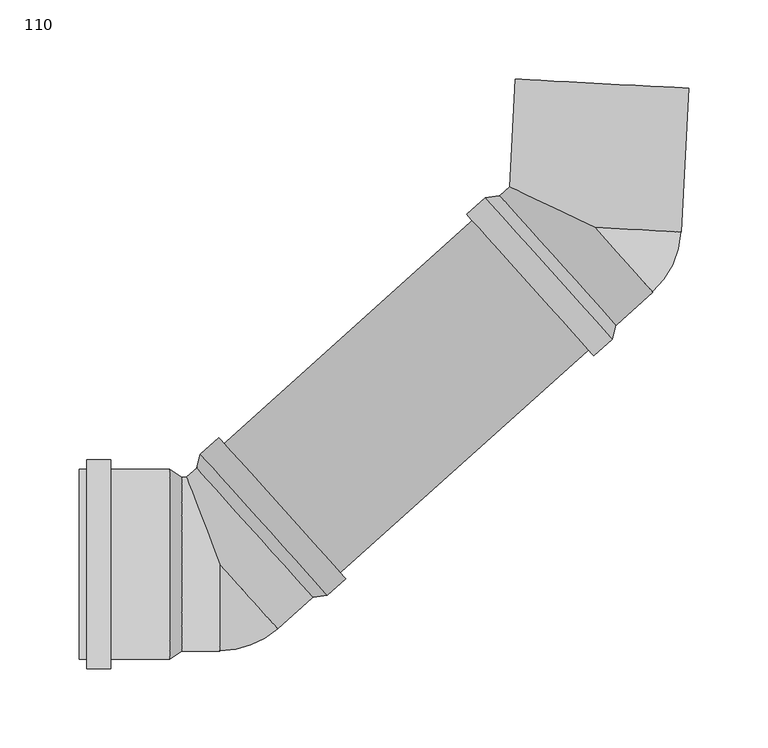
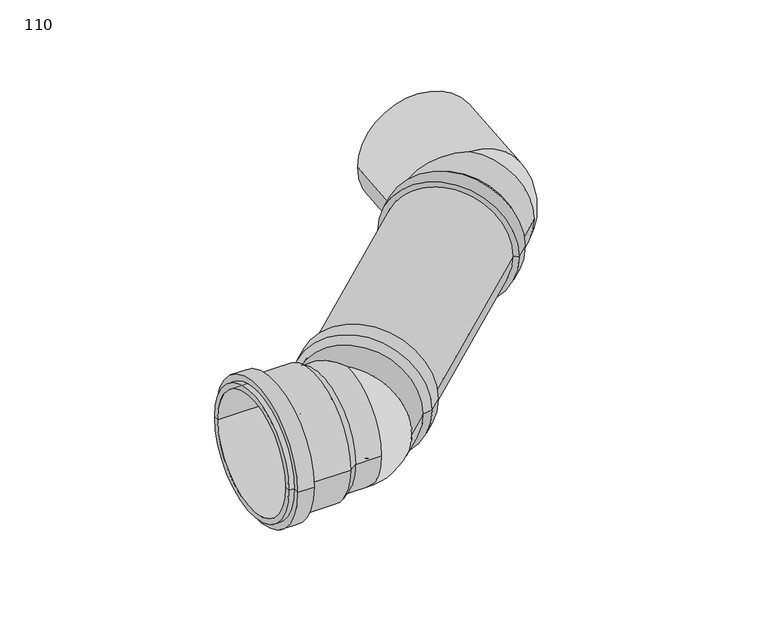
"""IFC4 building model written with IfcOpenShell, lengths in millimetres: pipe fitting geometry, AliaxisFR_Friaphon_LongCushioningSection_FR : 110."""

from ifc_helpers import new_model, si_unit, point, frame, frame_2d, origin, place, context, project, spatial, polyline, circle_curve, ellipse_curve, trimmed, segment, composite_curve, outline, extrude, source, transform, mapped, element, save
from ifc_brep_helpers import plane_surface, cylinder_surface, revolved_surface, advanced_brep


def pipe_fitting_110_3539ea34(model_context):
    return source(origin(), model_context, "Body", "SolidModel", [
        advanced_brep(
        [(10.6641927, 131.8771836, 0.0), (7.3217835, 135.595826, 0.0), (-66.2112184, 217.4059576, 0.0), (-69.5536275, 221.1245999, 0.0), (22.2663568, 142.3055003, 0.0), (-57.9514634, 231.5529166, 0.0), (24.576284, 151.1046046, 0.0), (-48.9567179, 232.9147362, 0.0)],
        [
            (0, 1),
            (1, 2, circle_curve(frame((-29.4447174, 176.5008918, 0.0), z_axis=(0.7437284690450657, 0.6684818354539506, 0.0), x_axis=(-0.6684818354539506, 0.7437284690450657, 0.0)), 55.0)),
            (2, 3),
            (3, 0, circle_curve(frame((-29.4447174, 176.5008918, 0.0), z_axis=(-0.7437284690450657, -0.6684818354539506, 0.0), x_axis=(-0.6684818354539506, 0.7437284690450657, 0.0)), 60.0)),
            (2, 1, circle_curve(frame((-29.4447174, 176.5008918, 0.0), z_axis=(0.7437284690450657, 0.6684818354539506, 0.0), x_axis=(-0.6684818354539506, 0.7437284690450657, 0.0)), 55.0)),
            (0, 3, circle_curve(frame((-29.4447174, 176.5008918, 0.0), z_axis=(-0.7437284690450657, -0.6684818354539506, 0.0), x_axis=(-0.6684818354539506, 0.7437284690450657, 0.0)), 60.0)),
            (4, 0),
            (3, 5),
            (5, 4, circle_curve(frame((-17.8425533, 186.9292084, 0.0), z_axis=(-0.7437284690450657, -0.6684818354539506, 0.0), x_axis=(-0.6684818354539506, 0.7437284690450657, 0.0)), 60.0)),
            (4, 5, circle_curve(frame((-17.8425533, 186.9292084, 0.0), z_axis=(-0.7437284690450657, -0.6684818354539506, 0.0), x_axis=(-0.6684818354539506, 0.7437284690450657, 0.0)), 60.0)),
            (1, 6),
            (6, 7, circle_curve(frame((-12.1902169, 192.0096704, 0.0), z_axis=(0.7437284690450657, 0.6684818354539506, 0.0), x_axis=(-0.6684818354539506, 0.7437284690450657, 0.0)), 55.0)),
            (7, 2),
            (7, 6, circle_curve(frame((-12.1902169, 192.0096704, 0.0), z_axis=(0.7437284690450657, 0.6684818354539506, 0.0), x_axis=(-0.6684818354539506, 0.7437284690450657, 0.0)), 55.0)),
            (6, 4),
            (5, 7),
        ],
        [
            plane_surface(frame((-29.4447174, 176.5008918, 0.0), z_axis=(-0.7437284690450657, -0.6684818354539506, 0.0), x_axis=(-0.6684818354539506, 0.7437284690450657, 0.0))),
            cylinder_surface(frame((-12.1902169, 192.0096704, 0.0), z_axis=(0.7437284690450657, 0.6684818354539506, 0.0), x_axis=(-0.6684818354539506, 0.7437284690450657, 0.0)), 60.0),
            revolved_surface(polyline([(-48.956717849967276, 232.91473619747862, 0.0), (-66.21121837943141, 217.40595757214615, 0.0)]), (-12.1902169, 192.0096704, 0.0), (0.7437284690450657, 0.6684818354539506, 0.0)),
            revolved_surface(polyline([(-57.9514634, 231.5529166, 0.0), (-48.9567179, 232.9147362, 0.0)]), (-12.1902169, 192.0096704, 0.0), (0.7437284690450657, 0.6684818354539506, 0.0)),
        ],
        [
            (0, [[1, 2, 3, 4]]),
            (0, [[-3, 5, -1, 6]]),
            (1, [[7, -4, 8, 9]]),
            (1, [[-8, -6, -7, 10]]),
            (2, [[11, 12, 13, -2]]),
            (2, [[-13, 14, -11, -5]]),
            (3, [[15, -9, 16, -12]]),
            (3, [[-16, -10, -15, -14]]),
        ],
    ),
        advanced_brep(
        [(-146.2362512, -9.1812325, 0.0), (-226.4540714, 80.0661838, 0.0), (-223.1116623, 76.3475414, 0.0), (-149.5786604, -5.4625902, 0.0), (-157.8384153, -19.6095491, 0.0), (-238.0562356, 69.6378671, 0.0), (-240.3661627, 60.8387629, 0.0), (-166.8331608, -20.9713687, 0.0)],
        [
            (0, 1, circle_curve(frame((-186.3451613, 35.4424756, 0.0), z_axis=(0.7437284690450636, 0.6684818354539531, 0.0), x_axis=(-0.6684818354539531, 0.7437284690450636, 0.0)), 60.0)),
            (1, 2),
            (2, 3, circle_curve(frame((-186.3451613, 35.4424756, 0.0), z_axis=(-0.7437284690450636, -0.6684818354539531, 0.0), x_axis=(-0.6684818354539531, 0.7437284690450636, 0.0)), 55.0)),
            (3, 0),
            (1, 0, circle_curve(frame((-186.3451613, 35.4424756, 0.0), z_axis=(0.7437284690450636, 0.6684818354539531, 0.0), x_axis=(-0.6684818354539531, 0.7437284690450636, 0.0)), 60.0)),
            (3, 2, circle_curve(frame((-186.3451613, 35.4424756, 0.0), z_axis=(-0.7437284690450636, -0.6684818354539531, 0.0), x_axis=(-0.6684818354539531, 0.7437284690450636, 0.0)), 55.0)),
            (4, 5, circle_curve(frame((-197.9473254, 25.014159, 0.0), z_axis=(0.7437284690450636, 0.6684818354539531, 0.0), x_axis=(-0.6684818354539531, 0.7437284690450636, 0.0)), 60.0)),
            (5, 1),
            (0, 4),
            (5, 4, circle_curve(frame((-197.9473254, 25.014159, 0.0), z_axis=(0.7437284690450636, 0.6684818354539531, 0.0), x_axis=(-0.6684818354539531, 0.7437284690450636, 0.0)), 60.0)),
            (2, 6),
            (6, 7, circle_curve(frame((-203.5996618, 19.9336971, 0.0), z_axis=(-0.7437284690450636, -0.6684818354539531, 0.0), x_axis=(-0.6684818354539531, 0.7437284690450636, 0.0)), 55.0)),
            (7, 3),
            (7, 6, circle_curve(frame((-203.5996618, 19.9336971, 0.0), z_axis=(-0.7437284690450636, -0.6684818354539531, 0.0), x_axis=(-0.6684818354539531, 0.7437284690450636, 0.0)), 55.0)),
            (6, 5),
            (4, 7),
        ],
        [
            plane_surface(frame((-186.3451613, 35.4424756, 0.0), z_axis=(0.7437284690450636, 0.6684818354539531, 0.0), x_axis=(-0.6684818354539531, 0.7437284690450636, 0.0))),
            cylinder_surface(frame((-203.5996618, 19.9336971, 0.0), z_axis=(-0.7437284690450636, -0.6684818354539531, 0.0), x_axis=(-0.6684818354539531, 0.7437284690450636, 0.0)), 60.0),
            revolved_surface(polyline([(-240.36616274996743, 60.8387628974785, 0.0), (-223.1116622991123, 76.34754145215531, 0.0)]), (-203.5996618, 19.9336971, 0.0), (-0.7437284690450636, -0.6684818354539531, 0.0)),
            revolved_surface(polyline([(-238.0562356, 69.6378671, 0.0), (-240.3661627, 60.8387629, 0.0)]), (-203.5996618, 19.9336971, 0.0), (-0.7437284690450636, -0.6684818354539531, 0.0)),
        ],
        [
            (0, [[1, 2, 3, 4]]),
            (0, [[5, -4, 6, -2]]),
            (1, [[7, 8, -1, 9]]),
            (1, [[10, -9, -5, -8]]),
            (2, [[-3, 11, 12, 13]]),
            (2, [[-6, -13, 14, -11]]),
            (3, [[-12, 15, -7, 16]]),
            (3, [[-14, -16, -10, -15]]),
        ],
    ),
        advanced_brep(
        [(21.8988615, 148.69807, 0.0), (-51.6341404, 230.5082016, 0.0), (47.9293579, 172.0949342, 0.0), (11.162857, 213.0, 55.0), (-42.5679912, 238.6570842, 0.0), (11.162857, 213.0, -55.0), (-38.9991954, 306.7537653, 0.0), (15.925429, 303.8752877, 55.0), (70.8500534, 300.9968101, 0.0), (15.925429, 303.8752877, -55.0), (66.0874814, 210.1215224, 0.0)],
        [
            (0, 1, circle_curve(frame((-14.8676394, 189.6031358, 0.0), z_axis=(-0.7437284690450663, -0.6684818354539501, 0.0), x_axis=(-0.6684818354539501, 0.7437284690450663, 0.0)), 55.0)),
            (1, 0, circle_curve(frame((-14.8676394, 189.6031358, 0.0), z_axis=(-0.7437284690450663, -0.6684818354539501, 0.0), x_axis=(-0.6684818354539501, 0.7437284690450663, 0.0)), 55.0)),
            (0, 2),
            (2, 3, circle_curve(frame((11.162857, 213.0, 0.0), z_axis=(-0.7437284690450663, -0.6684818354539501, 0.0), x_axis=(-0.6684818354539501, 0.7437284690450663, 0.0)), 55.0)),
            (3, 4, ellipse_curve(frame((11.162857, 213.0, 0.0), z_axis=(-0.43090488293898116, -0.9023973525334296, 0.0), x_axis=(-0.9023973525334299, 0.43090488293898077, 0.0)), 59.5423381, 55.0)),
            (4, 1),
            (4, 5, ellipse_curve(frame((11.162857, 213.0, 0.0), z_axis=(-0.43090488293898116, -0.9023973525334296, 0.0), x_axis=(-0.9023973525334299, 0.43090488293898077, 0.0)), 59.5423381, 55.0)),
            (5, 2, circle_curve(frame((11.162857, 213.0, 0.0), z_axis=(-0.7437284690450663, -0.6684818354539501, 0.0), x_axis=(-0.6684818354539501, 0.7437284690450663, 0.0)), 55.0)),
            (6, 7, circle_curve(frame((15.925429, 303.8752877, 0.0), z_axis=(0.05233595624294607, 0.9986295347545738, 0.0), x_axis=(-0.9986295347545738, 0.05233595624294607, 0.0)), 55.0)),
            (7, 8, circle_curve(frame((15.925429, 303.8752877, 0.0), z_axis=(0.05233595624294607, 0.9986295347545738, 0.0), x_axis=(-0.9986295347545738, 0.05233595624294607, 0.0)), 55.0)),
            (8, 9, circle_curve(frame((15.925429, 303.8752877, 0.0), z_axis=(0.05233595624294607, 0.9986295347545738, 0.0), x_axis=(-0.9986295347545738, 0.05233595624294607, 0.0)), 55.0)),
            (9, 6, circle_curve(frame((15.925429, 303.8752877, 0.0), z_axis=(0.05233595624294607, 0.9986295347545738, 0.0), x_axis=(-0.9986295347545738, 0.05233595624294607, 0.0)), 55.0)),
            (10, 8),
            (6, 4),
            (3, 10, circle_curve(frame((11.162857, 213.0, 0.0), z_axis=(0.05233595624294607, 0.9986295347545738, 0.0), x_axis=(-0.9986295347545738, 0.05233595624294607, 0.0)), 55.0)),
            (10, 5, circle_curve(frame((11.162857, 213.0, 0.0), z_axis=(0.05233595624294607, 0.9986295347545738, 0.0), x_axis=(-0.9986295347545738, 0.05233595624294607, 0.0)), 55.0)),
        ],
        [
            plane_surface(frame((-14.8676394, 189.6031358, 0.0), z_axis=(-0.7437284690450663, -0.6684818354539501, 0.0), x_axis=(0.0, 0.0, 1.0))),
            cylinder_surface(frame((-14.8676394, 189.6031358, 0.0), z_axis=(-0.7437284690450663, -0.6684818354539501, 0.0), x_axis=(-0.6684818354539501, 0.7437284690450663, 0.0)), 55.0),
            plane_surface(frame((15.925429, 303.8752877, 0.0), z_axis=(0.05233595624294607, 0.9986295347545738, 0.0), x_axis=(0.0, 0.0, 1.0))),
            cylinder_surface(frame((11.162857, 213.0, 0.0), z_axis=(-0.05233595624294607, -0.9986295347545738, 0.0), x_axis=(-0.9986295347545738, 0.05233595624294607, 0.0)), 55.0),
            revolved_surface(trimmed(ellipse_curve(frame((11.162857, 213.0, 0.0), z_axis=(0.05233595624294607, 0.9986295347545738, 0.0), x_axis=(-0.9986295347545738, 0.05233595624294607, 0.0)), 55.0, 55.0), [point((11.162857, 213.0, 55.0))], [point((11.162857, 213.0, -55.0))], True, "CARTESIAN"), (11.162857, 213.0, 55.0), (0.0, 0.0, -1.0)),
        ],
        [
            (0, [[1, 2]]),
            (1, [[-1, 3, 4, 5, 6]]),
            (1, [[-2, -6, 7, 8, -3]]),
            (2, [[9, 10, 11, 12]]),
            (3, [[13, -10, -9, 14, -5, 15]]),
            (3, [[-13, 16, -7, -14, -12, -11]]),
            (4, [[-4, -8, -16, -15]]),
        ],
    ),
        advanced_brep(
        [(-314.837143, -60.0539098, 0.0), (-314.837143, -55.0539098, 0.0), (-314.837143, 54.9460902, 0.0), (-314.837143, 59.9460902, 0.0), (-294.837143, -66.0539098, 0.0), (-309.837143, -66.0539098, 0.0), (-309.837143, 65.9460902, 0.0), (-294.837143, 65.9460902, 0.0), (-294.837143, -60.0539098, 0.0), (-294.837143, 59.9460902, 0.0), (-257.337143, -60.0539098, 0.0), (-257.337143, 59.9460902, 0.0), (-249.837143, -55.0539098, 0.0), (-249.837143, 54.9460902, 0.0), (-309.837143, -60.0539098, 0.0), (-309.837143, 59.9460902, 0.0)],
        [
            (0, 1),
            (1, 2, circle_curve(frame((-314.837143, -0.0539098, 0.0), z_axis=(1.0, 0.0, 0.0), x_axis=(0.0, 1.0, 0.0)), 55.0)),
            (2, 3),
            (3, 0, circle_curve(frame((-314.837143, -0.0539098, 0.0), z_axis=(-1.0, 0.0, 0.0), x_axis=(0.0, 1.0, 0.0)), 60.0)),
            (2, 1, circle_curve(frame((-314.837143, -0.0539098, 0.0), z_axis=(1.0, 0.0, 0.0), x_axis=(0.0, 1.0, 0.0)), 55.0)),
            (0, 3, circle_curve(frame((-314.837143, -0.0539098, 0.0), z_axis=(-1.0, 0.0, 0.0), x_axis=(0.0, 1.0, 0.0)), 60.0)),
            (4, 5),
            (5, 6, circle_curve(frame((-309.837143, -0.0539098, 0.0), z_axis=(1.0, 0.0, 0.0), x_axis=(0.0, 1.0, 0.0)), 66.0)),
            (6, 7),
            (7, 4, circle_curve(frame((-294.837143, -0.0539098, 0.0), z_axis=(-1.0, 0.0, 0.0), x_axis=(0.0, 1.0, 0.0)), 66.0)),
            (6, 5, circle_curve(frame((-309.837143, -0.0539098, 0.0), z_axis=(1.0, 0.0, 0.0), x_axis=(0.0, 1.0, 0.0)), 66.0)),
            (4, 7, circle_curve(frame((-294.837143, -0.0539098, 0.0), z_axis=(-1.0, 0.0, 0.0), x_axis=(0.0, 1.0, 0.0)), 66.0)),
            (8, 4),
            (7, 9),
            (9, 8, circle_curve(frame((-294.837143, -0.0539098, 0.0), z_axis=(-1.0, 0.0, 0.0), x_axis=(0.0, 1.0, 0.0)), 60.0)),
            (8, 9, circle_curve(frame((-294.837143, -0.0539098, 0.0), z_axis=(-1.0, 0.0, 0.0), x_axis=(0.0, 1.0, 0.0)), 60.0)),
            (10, 8),
            (9, 11),
            (11, 10, circle_curve(frame((-257.337143, -0.0539098, 0.0), z_axis=(-1.0, 0.0, 0.0), x_axis=(0.0, 1.0, 0.0)), 60.0)),
            (10, 11, circle_curve(frame((-257.337143, -0.0539098, 0.0), z_axis=(-1.0, 0.0, 0.0), x_axis=(0.0, 1.0, 0.0)), 60.0)),
            (1, 12),
            (12, 13, circle_curve(frame((-249.837143, -0.0539098, 0.0), z_axis=(1.0, 0.0, 0.0), x_axis=(0.0, 1.0, 0.0)), 55.0)),
            (13, 2),
            (13, 12, circle_curve(frame((-249.837143, -0.0539098, 0.0), z_axis=(1.0, 0.0, 0.0), x_axis=(0.0, 1.0, 0.0)), 55.0)),
            (12, 10),
            (11, 13),
            (14, 0),
            (3, 15),
            (15, 14, circle_curve(frame((-309.837143, -0.0539098, 0.0), z_axis=(-1.0, 0.0, 0.0), x_axis=(0.0, 1.0, 0.0)), 60.0)),
            (14, 15, circle_curve(frame((-309.837143, -0.0539098, 0.0), z_axis=(-1.0, 0.0, 0.0), x_axis=(0.0, 1.0, 0.0)), 60.0)),
            (5, 14),
            (15, 6),
        ],
        [
            plane_surface(frame((-314.837143, -0.0539098, 0.0), z_axis=(-1.0, 0.0, 0.0), x_axis=(0.0, 1.0, 0.0))),
            cylinder_surface(frame((-249.837143, -0.0539098, 0.0), z_axis=(1.0, 0.0, 0.0), x_axis=(0.0, 1.0, 0.0)), 66.0),
            plane_surface(frame((-294.837143, -0.0539098, 0.0), z_axis=(1.0, 0.0, 0.0), x_axis=(0.0, 1.0, 0.0))),
            cylinder_surface(frame((-249.837143, -0.0539098, 0.0), z_axis=(1.0, 0.0, 0.0), x_axis=(0.0, 1.0, 0.0)), 60.0),
            revolved_surface(polyline([(-249.837143, 54.9460902, 0.0), (-314.837143, 54.9460902, 0.0)]), (-249.837143, -0.0539098, 0.0), (1.0, 0.0, 0.0)),
            revolved_surface(polyline([(-257.337143, 59.9460902, 0.0), (-249.837143, 54.9460902, 0.0)]), (-249.837143, -0.0539098, 0.0), (1.0, 0.0, 0.0)),
            plane_surface(frame((-309.837143, -0.0539098, 0.0), z_axis=(-1.0, 0.0, 0.0), x_axis=(0.0, 1.0, 0.0))),
        ],
        [
            (0, [[1, 2, 3, 4]]),
            (0, [[-3, 5, -1, 6]]),
            (1, [[7, 8, 9, 10]]),
            (1, [[-9, 11, -7, 12]]),
            (2, [[13, -10, 14, 15]]),
            (2, [[-14, -12, -13, 16]]),
            (3, [[17, -15, 18, 19]]),
            (3, [[-18, -16, -17, 20]]),
            (4, [[21, 22, 23, -2]]),
            (4, [[-23, 24, -21, -5]]),
            (5, [[25, -19, 26, -22]]),
            (5, [[-26, -20, -25, -24]]),
            (3, [[27, -4, 28, 29]]),
            (3, [[-28, -6, -27, 30]]),
            (6, [[31, -29, 32, -8]]),
            (6, [[-32, -30, -31, -11]]),
        ],
    ),
        advanced_brep(
        [(-254.837143, 54.9460902, 0.0), (-254.837143, -55.0539098, 0.0), (-225.837143, -55.0539098, 0.0), (-225.837143, -0.0539098, 55.0), (-246.9221351, 54.9460902, 0.0), (-225.837143, -0.0539098, -55.0), (-164.1557383, -18.5648341, 0.0), (-237.6887402, 63.2452975, 0.0), (-189.0706421, -40.9589756, 0.0)],
        [
            (0, 1, circle_curve(frame((-254.837143, -0.0539098, 0.0), z_axis=(-1.0, 0.0, 0.0), x_axis=(0.0, 1.0, 0.0)), 55.0)),
            (1, 0, circle_curve(frame((-254.837143, -0.0539098, 0.0), z_axis=(-1.0, 0.0, 0.0), x_axis=(0.0, 1.0, 0.0)), 55.0)),
            (2, 3, circle_curve(frame((-225.837143, -0.0539098, 0.0), z_axis=(-1.0, 0.0, 0.0), x_axis=(0.0, 1.0, 0.0)), 55.0)),
            (3, 4, ellipse_curve(frame((-225.837143, -0.0539098, 0.0), z_axis=(-0.9337367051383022, -0.35796056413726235, 0.0), x_axis=(0.35796056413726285, -0.933736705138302, 0.0)), 58.9031144, 55.0)),
            (4, 0),
            (1, 2),
            (4, 5, ellipse_curve(frame((-225.837143, -0.0539098, 0.0), z_axis=(-0.9337367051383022, -0.35796056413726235, 0.0), x_axis=(0.35796056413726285, -0.933736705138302, 0.0)), 58.9031144, 55.0)),
            (5, 2, circle_curve(frame((-225.837143, -0.0539098, 0.0), z_axis=(-1.0, 0.0, 0.0), x_axis=(0.0, 1.0, 0.0)), 55.0)),
            (6, 7, circle_curve(frame((-200.9222393, 22.3402317, 0.0), z_axis=(0.7437284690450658, 0.6684818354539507, 0.0), x_axis=(-0.6684818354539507, 0.7437284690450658, 0.0)), 55.0)),
            (7, 6, circle_curve(frame((-200.9222393, 22.3402317, 0.0), z_axis=(0.7437284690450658, 0.6684818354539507, 0.0), x_axis=(-0.6684818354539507, 0.7437284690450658, 0.0)), 55.0)),
            (7, 4),
            (3, 8, circle_curve(frame((-225.837143, -0.0539098, 0.0), z_axis=(0.7437284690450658, 0.6684818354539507, 0.0), x_axis=(-0.6684818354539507, 0.7437284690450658, 0.0)), 55.0)),
            (8, 6),
            (8, 5, circle_curve(frame((-225.837143, -0.0539098, 0.0), z_axis=(0.7437284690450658, 0.6684818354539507, 0.0), x_axis=(-0.6684818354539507, 0.7437284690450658, 0.0)), 55.0)),
        ],
        [
            plane_surface(frame((-254.837143, -0.0539098, 0.0), z_axis=(-1.0, 0.0, 0.0), x_axis=(0.0, 0.0, 1.0))),
            cylinder_surface(frame((-225.837143, -0.0539098, 0.0), z_axis=(1.0, 0.0, 0.0), x_axis=(0.0, 1.0, 0.0)), 55.0),
            plane_surface(frame((-200.9222393, 22.3402317, 0.0), z_axis=(0.7437284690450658, 0.6684818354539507, 0.0), x_axis=(0.0, 0.0, 1.0))),
            cylinder_surface(frame((-200.9222393, 22.3402317, 0.0), z_axis=(0.7437284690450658, 0.6684818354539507, 0.0), x_axis=(-0.6684818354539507, 0.7437284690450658, 0.0)), 55.0),
            revolved_surface(trimmed(ellipse_curve(frame((-225.837143, -0.0539098, 0.0), z_axis=(1.0, 0.0, 0.0), x_axis=(0.0, 1.0, 0.0)), 55.0, 55.0), [point((-225.837143, -0.0539098, 55.0))], [point((-225.837143, -0.0539098, -55.0))], True, "CARTESIAN"), (-225.837143, -0.0539098, 55.0), (0.0, 0.0, -1.0)),
        ],
        [
            (0, [[1, 2]]),
            (1, [[3, 4, 5, -2, 6]]),
            (1, [[-1, -5, 7, 8, -6]]),
            (2, [[9, 10]]),
            (3, [[11, -4, 12, 13, -10]]),
            (3, [[-13, 14, -7, -11, -9]]),
            (4, [[-3, -8, -14, -12]]),
        ],
    ),
        extrude(outline(composite_curve([segment(trimmed(circle_curve(frame_2d((0.0, -0.0240631)), 55.0), [point((0.0, 54.9759369))], [point((0.0, -55.0240631))], False, "CARTESIAN"), True, "CONTINUOUS"), segment(trimmed(circle_curve(frame_2d((0.0, -0.0240631)), 55.0), [point((0.0, -55.0240631))], [point((0.0, 54.9759369))], False, "CARTESIAN"), True, "CONTINUOUS")], self_intersect=False)), frame((-200.9222393, 22.3402317, 0.0), z_axis=(0.7437284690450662, 0.6684818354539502, 0.0), x_axis=(0.0, 0.0, 1.0)), (0.0, 0.0, 1.0), 250.1863159),
    ])


if __name__ == "__main__":
    model = new_model("IFC4")
    model_context = context("Model", 3, world=origin())
    ifc_project = project(units=[si_unit("LENGTHUNIT", "METRE", prefix="MILLI")], contexts=[model_context])
    site = spatial("IfcSite", under=ifc_project)
    building = spatial("IfcBuilding", under=site)
    placement = place(None, origin())
    pipe_fitting_110_shape = pipe_fitting_110_3539ea34(model_context)
    element("IfcPipeFitting", 1, ObjectType="AliaxisFR_Friaphon_LongCushioningSection_FR : 110", at=placement, inside=building, context=model_context, shape_type="MappedRepresentation", body=[
        mapped(pipe_fitting_110_shape, transform((0.0, 0.0, 0.0), x_axis=(1.0, 0.0, 0.0), y_axis=(0.0, 1.0, 0.0), z_axis=(0.0, 0.0, 1.0))),
    ])
    save(model, "model.ifc")
